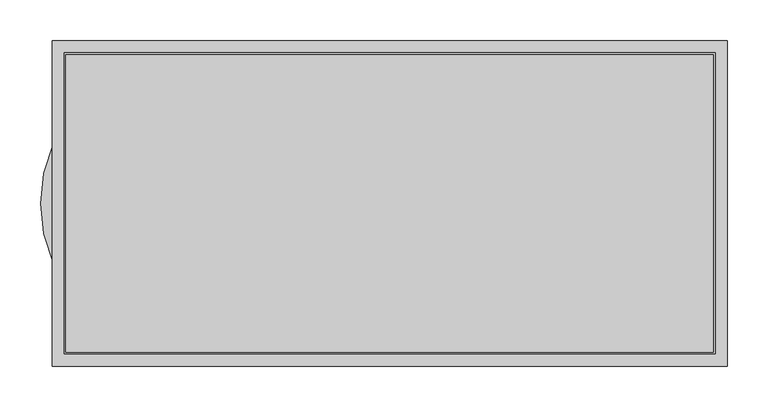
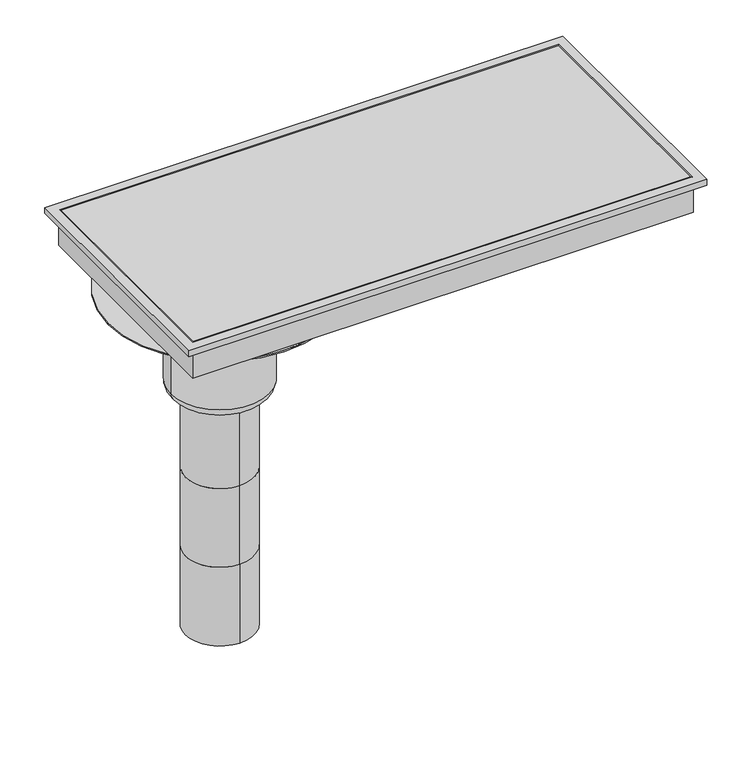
"""IFC4 building model written with IfcOpenShell, lengths in millimetres: sanitary terminal geometry, PF_ST_UN_Siphon telescopics eskis elongated hygiene first_ACO : 400 x 800 telescopic hygienic gully 157mm outlet DN110 gully top offset."""

from ifc_helpers import new_model, si_unit, point, frame, origin, origin_2d, place, context, project, spatial, polyline, circle_curve, ellipse_curve, trimmed, segment, composite_curve, outline, extrude, faceted_brep, source, transform, mapped, element, save
from ifc_brep_helpers import plane_surface, cylinder_surface, revolved_surface, advanced_brep


def sanitary_terminal_ef3abaf6(model_context):
    return source(origin(), model_context, "Body", "SolidModel", [
        extrude(outline(composite_curve([segment(trimmed(circle_curve(origin_2d(), 71.5), [point((-71.5, 0.0))], [point((71.5, 0.0))], False, "CARTESIAN"), True, "CONTINUOUS"), segment(trimmed(circle_curve(origin_2d(), 71.5), [point((71.5, 0.0))], [point((-71.5, 0.0))], False, "CARTESIAN"), True, "CONTINUOUS")], self_intersect=False)), frame((0.0, 0.0, -240.0), z_axis=(0.0, 0.0, 1.0), x_axis=(1.0, 0.0, 0.0)), (0.0, 0.0, 1.0), 60.0),
        faceted_brep([(665.0, 200.0, -130.0), (665.0, 200.0, -120.0), (665.0, -200.0, -120.0), (665.0, -200.0, -130.0), (651.0, 186.0, -180.0), (651.0, 186.0, -130.0), (651.0, -186.0, -130.0), (651.0, -186.0, -180.0), (650.0, -185.0, -120.0), (650.0, 185.0, -120.0), (650.0, 185.0, -170.0), (650.0, -185.0, -170.0), (-165.0, -200.0, -120.0), (-165.0, -200.0, -130.0), (-151.0, -186.0, -130.0), (-151.0, -186.0, -180.0), (-150.0, -185.0, -120.0), (-150.0, -185.0, -170.0), (-165.0, 200.0, -120.0), (-165.0, 200.0, -130.0), (-151.0, 186.0, -130.0), (-151.0, 186.0, -180.0), (-150.0, 185.0, -120.0), (-150.0, 185.0, -170.0)], [[[0, 1, 2, 3]], [[4, 5, 6, 7]], [[8, 9, 10, 11]], [[3, 2, 12, 13]], [[7, 6, 14, 15]], [[16, 8, 11, 17]], [[13, 12, 18, 19]], [[15, 14, 20, 21]], [[22, 16, 17, 23]], [[2, 1, 18, 12], [9, 8, 16, 22]], [[1, 0, 19, 18]], [[0, 3, 13, 19], [6, 5, 20, 14]], [[5, 4, 21, 20]], [[4, 7, 15, 21]], [[9, 22, 23, 10]], [[11, 10, 23, 17]]]),
        extrude(outline(polyline([(648.0, 183.0), (648.0, -183.0), (-148.0, -183.0), (-148.0, 183.0), (648.0, 183.0)])), frame((0.0, 0.0, -170.0), z_axis=(0.0, 0.0, 1.0), x_axis=(1.0, 0.0, 0.0)), (0.0, 0.0, 1.0), 50.0),
        advanced_brep(
        [(0.0, -55.0, -761.0), (0.0, 55.0, -761.0), (0.0, -55.0, -627.6666667), (0.0, 55.0, -627.6666667), (0.0, -55.0, -494.3333333), (0.0, 55.0, -494.3333333), (0.0, 55.0, -361.0), (55.0, 0.0, -361.0), (0.0, -55.0, -361.0), (-55.0, 0.0, -361.0), (78.5, 0.0, -344.5), (-78.5, 0.0, -344.5), (-78.5, 0.0, -192.0), (78.5, 0.0, -192.0), (62.0, 0.0, -361.0), (-62.0, 0.0, -361.0), (-179.0, 0.0, -192.0), (179.0, 0.0, -192.0), (-179.0, 0.0, -190.0), (179.0, 0.0, -190.0)],
        [
            (0, 1, circle_curve(frame((0.0, 0.0, -761.0), z_axis=(0.0, 0.0, -1.0), x_axis=(0.0, 1.0, 0.0)), 55.0)),
            (1, 0, circle_curve(frame((0.0, 0.0, -761.0), z_axis=(0.0, 0.0, -1.0), x_axis=(0.0, 1.0, 0.0)), 55.0)),
            (0, 2),
            (2, 3, circle_curve(frame((0.0, 0.0, -627.6666667), z_axis=(0.0, 0.0, -1.0), x_axis=(0.0, 1.0, 0.0)), 55.0)),
            (3, 1),
            (3, 2, circle_curve(frame((0.0, 0.0, -627.6666667), z_axis=(0.0, 0.0, -1.0), x_axis=(0.0, 1.0, 0.0)), 55.0)),
            (4, 2),
            (3, 5),
            (5, 4, circle_curve(frame((0.0, 0.0, -494.3333333), z_axis=(0.0, 0.0, -1.0), x_axis=(1.0, 0.0, 0.0)), 55.0)),
            (4, 5, circle_curve(frame((0.0, 0.0, -494.3333333), z_axis=(0.0, 0.0, -1.0), x_axis=(-1.0, 0.0, 0.0)), 55.0)),
            (5, 6),
            (6, 7, circle_curve(frame((0.0, 0.0, -361.0), z_axis=(0.0, 0.0, -1.0), x_axis=(0.0, 1.0, 0.0)), 55.0)),
            (7, 8, circle_curve(frame((0.0, 0.0, -361.0), z_axis=(0.0, 0.0, -1.0), x_axis=(0.0, 1.0, 0.0)), 55.0)),
            (8, 4),
            (8, 9, circle_curve(frame((0.0, 0.0, -361.0), z_axis=(0.0, 0.0, -1.0), x_axis=(0.0, 1.0, 0.0)), 55.0)),
            (9, 6, circle_curve(frame((0.0, 0.0, -361.0), z_axis=(0.0, 0.0, -1.0), x_axis=(0.0, 1.0, 0.0)), 55.0)),
            (10, 11, circle_curve(frame((0.0, 0.0, -344.5), z_axis=(0.0, 0.0, 1.0), x_axis=(-1.0, 0.0, 0.0)), 78.5)),
            (11, 12),
            (12, 13, circle_curve(frame((0.0, 0.0, -192.0), z_axis=(0.0, 0.0, -1.0), x_axis=(-1.0, 0.0, 0.0)), 78.5)),
            (13, 10),
            (11, 10, circle_curve(frame((0.0, 0.0, -344.5), z_axis=(0.0, 0.0, 1.0), x_axis=(-1.0, 0.0, 0.0)), 78.5)),
            (13, 12, circle_curve(frame((0.0, 0.0, -192.0), z_axis=(0.0, 0.0, -1.0), x_axis=(-1.0, 0.0, 0.0)), 78.5)),
            (10, 14, circle_curve(frame((62.0, 0.0, -344.5), z_axis=(0.0, 1.0, 0.0), x_axis=(-1.0, 0.0, 0.0)), 16.5)),
            (14, 15, circle_curve(frame((0.0, 0.0, -361.0), z_axis=(0.0, 0.0, 1.0), x_axis=(-1.0, 0.0, 0.0)), 62.0)),
            (15, 11, circle_curve(frame((-62.0, 0.0, -344.5), z_axis=(0.0, 1.0, 0.0), x_axis=(1.0, 0.0, 0.0)), 16.5)),
            (15, 14, circle_curve(frame((0.0, 0.0, -361.0), z_axis=(0.0, 0.0, 1.0), x_axis=(-1.0, 0.0, 0.0)), 62.0)),
            (14, 7),
            (9, 15),
            (16, 17, circle_curve(frame((0.0, 0.0, -192.0), z_axis=(0.0, 0.0, -1.0), x_axis=(1.0, 0.0, 0.0)), 179.0)),
            (17, 16, circle_curve(frame((0.0, 0.0, -192.0), z_axis=(0.0, 0.0, -1.0), x_axis=(1.0, 0.0, 0.0)), 179.0)),
            (18, 19, circle_curve(frame((0.0, 0.0, -190.0), z_axis=(0.0, 0.0, 1.0), x_axis=(1.0, 0.0, 0.0)), 179.0)),
            (19, 18, circle_curve(frame((0.0, 0.0, -190.0), z_axis=(0.0, 0.0, 1.0), x_axis=(1.0, 0.0, 0.0)), 179.0)),
            (17, 19),
            (18, 16),
        ],
        [
            plane_surface(frame((0.0, 55.0, -761.0), z_axis=(0.0, 0.0, -1.0), x_axis=(1.0, 0.0, 0.0))),
            cylinder_surface(frame((0.0, 0.0, -627.6666667), z_axis=(0.0, 0.0, -1.0), x_axis=(0.0, 1.0, 0.0)), 55.0),
            cylinder_surface(frame((0.0, 0.0, -494.3333333), z_axis=(0.0, 0.0, -1.0), x_axis=(1.0, 0.0, 0.0)), 55.0),
            cylinder_surface(frame((0.0, 0.0, -494.3333333), z_axis=(0.0, 0.0, -1.0), x_axis=(-1.0, 0.0, 0.0)), 55.0),
            cylinder_surface(frame((0.0, 0.0, -361.0), z_axis=(0.0, 0.0, -1.0), x_axis=(0.0, 1.0, 0.0)), 55.0),
            cylinder_surface(frame((0.0, 0.0, -130.0), z_axis=(0.0, 0.0, -1.0), x_axis=(-1.0, 0.0, 0.0)), 78.5),
            revolved_surface(trimmed(ellipse_curve(frame((-62.0, 0.0, -344.5), z_axis=(0.0, -1.0, 0.0), x_axis=(1.0, 0.0, 0.0)), 16.5, 16.5), [point((-78.5, 0.0, -344.5))], [point((-62.0, 0.0, -361.0))], True, "CARTESIAN"), (0.0, 0.0, -130.0), (0.0, 0.0, -1.0)),
            plane_surface(frame((0.0, 0.0, -361.0), z_axis=(0.0, 0.0, -1.0), x_axis=(-1.0, 0.0, 0.0))),
            plane_surface(frame((179.0, 0.0, -192.0), z_axis=(0.0, 0.0, -1.0), x_axis=(0.0, -1.0, 0.0))),
            plane_surface(frame((179.0, 0.0, -190.0), z_axis=(0.0, 0.0, 1.0), x_axis=(0.0, 1.0, 0.0))),
            cylinder_surface(frame((0.0, 0.0, -192.0), z_axis=(0.0, 0.0, 1.0), x_axis=(1.0, 0.0, 0.0)), 179.0),
        ],
        [
            (0, [[1, 2]]),
            (1, [[-1, 3, 4, 5]]),
            (1, [[-2, -5, 6, -3]]),
            (2, [[7, -6, 8, 9]]),
            (3, [[-7, 10, -8, -4]]),
            (4, [[11, 12, 13, 14, -9]]),
            (4, [[-11, -10, -14, 15, 16]]),
            (5, [[17, 18, 19, 20]]),
            (5, [[-18, 21, -20, 22]]),
            (6, [[-17, 23, 24, 25]]),
            (6, [[-21, -25, 26, -23]]),
            (7, [[-24, 27, -12, -16, 28]]),
            (7, [[-26, -28, -15, -13, -27]]),
            (8, [[29, 30], [-19, -22]]),
            (9, [[31, 32]]),
            (10, [[-30, 33, -31, 34]]),
            (10, [[-29, -34, -32, -33]]),
        ],
    ),
    ])


if __name__ == "__main__":
    model = new_model("IFC4")
    model_context = context("Model", 3, world=origin())
    ifc_project = project(units=[si_unit("LENGTHUNIT", "METRE", prefix="MILLI")], contexts=[model_context])
    site = spatial("IfcSite", under=ifc_project)
    building = spatial("IfcBuilding", under=site)
    placement = place(None, origin())
    sanitary_terminal_shape = sanitary_terminal_ef3abaf6(model_context)
    element("IfcSanitaryTerminal", 1, ObjectType="PF_ST_UN_Siphon telescopics eskis elongated hygiene first_ACO : 400 x 800 telescopic hygienic gully 157mm outlet DN110 gully top offset", at=placement, inside=building, context=model_context, shape_type="MappedRepresentation", body=[
        mapped(sanitary_terminal_shape, transform((0.0, 0.0, 0.0), x_axis=(1.0, 0.0, 0.0), y_axis=(0.0, 1.0, 0.0), z_axis=(0.0, 0.0, 1.0))),
    ])
    save(model, "model.ifc")
